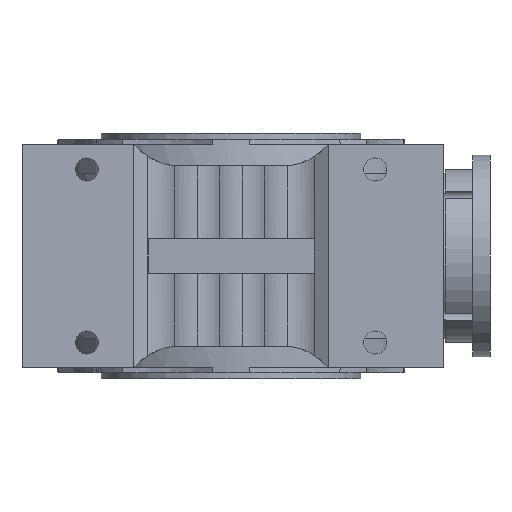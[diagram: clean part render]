
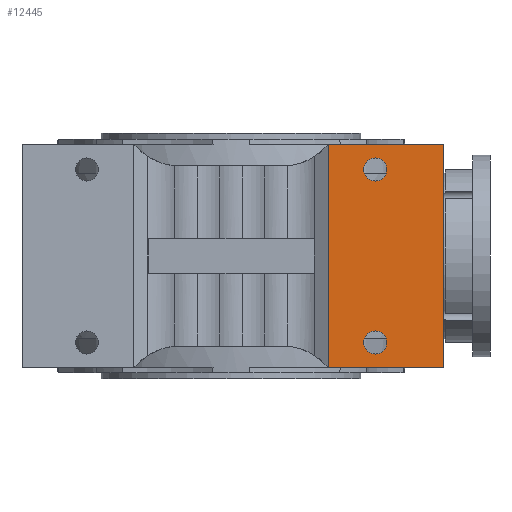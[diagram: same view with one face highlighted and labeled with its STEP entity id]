
A CAD part, front view. The second image highlights one B-rep face of the part: STEP entity #12445.
In plain terms, the highlighted planar face has unit normal (0, -1, 0).
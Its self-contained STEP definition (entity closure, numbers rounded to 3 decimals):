
#16 = LINE ( 'NONE', #17, #33119 ) ;
#17 = CARTESIAN_POINT ( 'NONE',  ( -145., -147.5, 77.5 ) ) ;
#18 = DIRECTION ( 'NONE',  ( -1., 0., 0. ) ) ;
#3168 = EDGE_LOOP ( 'NONE', ( #29351, #29354, #29355, #29357 ) ) ;
#3169 = EDGE_LOOP ( 'NONE', ( #29348, #29353 ) ) ;
#3170 = EDGE_LOOP ( 'NONE', ( #29350, #29352 ) ) ;
#4303 = AXIS2_PLACEMENT_3D ( 'NONE', #10485, #10492, #10493 ) ;
#4306 = VECTOR ( 'NONE', #10491, 1000. ) ;
#4308 = AXIS2_PLACEMENT_3D ( 'NONE', #10494, #10495, #10496 ) ;
#4602 = EDGE_CURVE ( 'NONE', #12892, #13006, #10486, .T. ) ;
#4603 = EDGE_CURVE ( 'NONE', #12931, #13006, #10489, .T. ) ;
#4604 = EDGE_CURVE ( 'NONE', #14892, #14893, #13448, .T. ) ;
#4605 = EDGE_CURVE ( 'NONE', #14896, #14897, #13449, .T. ) ;
#5627 = LINE ( 'NONE', #5628, #33077 ) ;
#5628 = CARTESIAN_POINT ( 'NONE',  ( 67.5, -147.5, -77.5 ) ) ;
#5629 = DIRECTION ( 'NONE',  ( 0., 0., -1. ) ) ;
#10485 = CARTESIAN_POINT ( 'NONE',  ( 100., -147.5, -60. ) ) ;
#10486 = LINE ( 'NONE', #10487, #28796 ) ;
#10487 = CARTESIAN_POINT ( 'NONE',  ( 147.5, -147.5, -77.5 ) ) ;
#10488 = DIRECTION ( 'NONE',  ( 0., 0., -1. ) ) ;
#10489 = LINE ( 'NONE', #10490, #4306 ) ;
#10490 = CARTESIAN_POINT ( 'NONE',  ( 0., -147.5, -77.5 ) ) ;
#10491 = DIRECTION ( 'NONE',  ( 1., 0., 0. ) ) ;
#10492 = DIRECTION ( 'NONE',  ( 0., -1., 0. ) ) ;
#10493 = DIRECTION ( 'NONE',  ( 0., 0., -1. ) ) ;
#10494 = CARTESIAN_POINT ( 'NONE',  ( 100., -147.5, 60. ) ) ;
#10495 = DIRECTION ( 'NONE',  ( 0., -1., 0. ) ) ;
#10496 = DIRECTION ( 'NONE',  ( 0., 0., -1. ) ) ;
#11226 = CARTESIAN_POINT ( 'NONE',  ( 100., -147.5, -68. ) ) ;
#11227 = CARTESIAN_POINT ( 'NONE',  ( 100., -147.5, -52. ) ) ;
#11230 = CARTESIAN_POINT ( 'NONE',  ( 100., -147.5, 52. ) ) ;
#11231 = CARTESIAN_POINT ( 'NONE',  ( 100., -147.5, 68. ) ) ;
#12445 = ADVANCED_FACE ( 'NONE', ( #16887, #16888, #16890 ), #28406, .T. ) ;
#12780 = VERTEX_POINT ( 'NONE', #24350 ) ;
#12892 = VERTEX_POINT ( 'NONE', #24500 ) ;
#12931 = VERTEX_POINT ( 'NONE', #24522 ) ;
#13006 = VERTEX_POINT ( 'NONE', #24564 ) ;
#13448 = CIRCLE ( 'NONE', #4303, 8. ) ;
#13449 = CIRCLE ( 'NONE', #4308, 8. ) ;
#14257 = CIRCLE ( 'NONE', #16012, 8. ) ;
#14262 = CIRCLE ( 'NONE', #16016, 8. ) ;
#14892 = VERTEX_POINT ( 'NONE', #11226 ) ;
#14893 = VERTEX_POINT ( 'NONE', #11227 ) ;
#14896 = VERTEX_POINT ( 'NONE', #11230 ) ;
#14897 = VERTEX_POINT ( 'NONE', #11231 ) ;
#16012 = AXIS2_PLACEMENT_3D ( 'NONE', #19398, #19405, #19406 ) ;
#16016 = AXIS2_PLACEMENT_3D ( 'NONE', #19413, #19417, #19418 ) ;
#16887 = FACE_BOUND ( 'NONE', #3170, .T. ) ;
#16888 = FACE_BOUND ( 'NONE', #3169, .T. ) ;
#16890 = FACE_OUTER_BOUND ( 'NONE', #3168, .T. ) ;
#16892 = AXIS2_PLACEMENT_3D ( 'NONE', #28407, #28408, #28409 ) ;
#18256 = EDGE_CURVE ( 'NONE', #12780, #12931, #5627, .T. ) ;
#18309 = EDGE_CURVE ( 'NONE', #12892, #12780, #16, .T. ) ;
#19398 = CARTESIAN_POINT ( 'NONE',  ( 100., -147.5, -60. ) ) ;
#19405 = DIRECTION ( 'NONE',  ( 0., -1., 0. ) ) ;
#19406 = DIRECTION ( 'NONE',  ( 0., 0., -1. ) ) ;
#19413 = CARTESIAN_POINT ( 'NONE',  ( 100., -147.5, 60. ) ) ;
#19417 = DIRECTION ( 'NONE',  ( 0., -1., 0. ) ) ;
#19418 = DIRECTION ( 'NONE',  ( 0., 0., -1. ) ) ;
#23308 = EDGE_CURVE ( 'NONE', #14893, #14892, #14257, .T. ) ;
#23320 = EDGE_CURVE ( 'NONE', #14897, #14896, #14262, .T. ) ;
#24350 = CARTESIAN_POINT ( 'NONE',  ( 67.5, -147.5, 77.5 ) ) ;
#24500 = CARTESIAN_POINT ( 'NONE',  ( 147.5, -147.5, 77.5 ) ) ;
#24522 = CARTESIAN_POINT ( 'NONE',  ( 67.5, -147.5, -77.5 ) ) ;
#24564 = CARTESIAN_POINT ( 'NONE',  ( 147.5, -147.5, -77.5 ) ) ;
#28406 = PLANE ( 'NONE',  #16892 ) ;
#28407 = CARTESIAN_POINT ( 'NONE',  ( -145., -147.5, -77.5 ) ) ;
#28408 = DIRECTION ( 'NONE',  ( 0., -1., 0. ) ) ;
#28409 = DIRECTION ( 'NONE',  ( 0., 0., -1. ) ) ;
#28796 = VECTOR ( 'NONE', #10488, 1000. ) ;
#29348 = ORIENTED_EDGE ( 'NONE', *, *, #4604, .F. ) ;
#29350 = ORIENTED_EDGE ( 'NONE', *, *, #4605, .F. ) ;
#29351 = ORIENTED_EDGE ( 'NONE', *, *, #18309, .T. ) ;
#29352 = ORIENTED_EDGE ( 'NONE', *, *, #23320, .F. ) ;
#29353 = ORIENTED_EDGE ( 'NONE', *, *, #23308, .F. ) ;
#29354 = ORIENTED_EDGE ( 'NONE', *, *, #18256, .T. ) ;
#29355 = ORIENTED_EDGE ( 'NONE', *, *, #4603, .T. ) ;
#29357 = ORIENTED_EDGE ( 'NONE', *, *, #4602, .F. ) ;
#33077 = VECTOR ( 'NONE', #5629, 1000. ) ;
#33119 = VECTOR ( 'NONE', #18, 1000. ) ;
